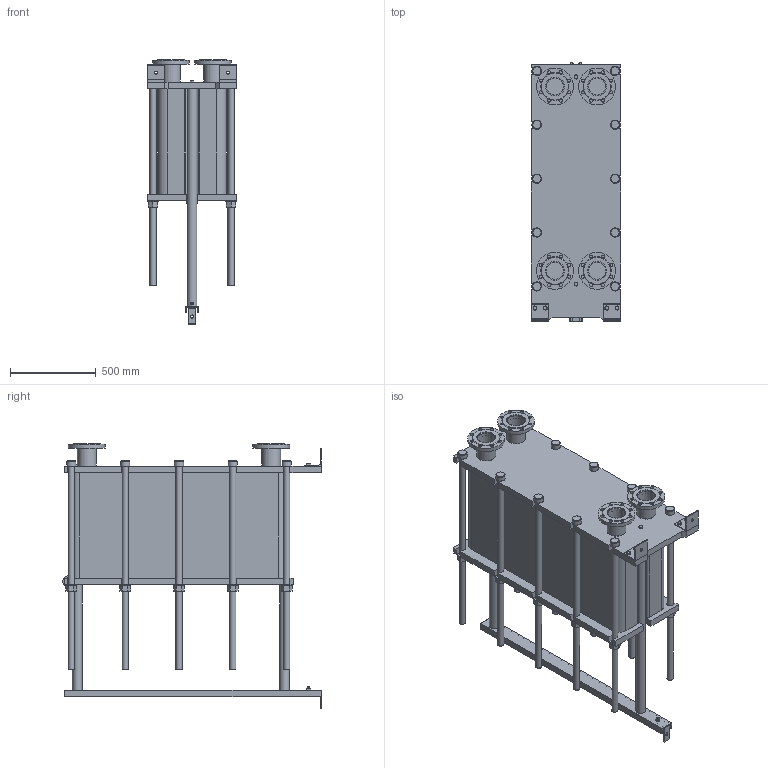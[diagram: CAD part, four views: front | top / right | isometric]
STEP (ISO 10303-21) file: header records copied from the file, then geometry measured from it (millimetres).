
FILE_DESCRIPTION(/* description */ (''),/* implementation_level */ '2;1');
FILE_NAME(/* name */ 'C:\Users\zhuro\Desktop\ENCO\TO\ЭН-04\ЭН-0,5-04-178-1.stp',/* time_stamp */ '2022-06-06T11:00:39+03:00',/* author */ ('zhuro'),/* organization */ (''),/* preprocessor_version */ 'ST-DEVELOPER v18.1',/* originating_system */ 'Autodesk Inventor 2022',/* authorisation */ '');
FILE_SCHEMA (('AUTOMOTIVE_DESIGN { 1 0 10303 214 3 1 1 }'));
Length unit declared in the file: millimetre
Products named in the file (1): ЭН-0,5-04-178-1
Bounding box: 520 x 1510 x 1544 mm (x, y, z)
Volume: 382304914.5 mm3; surface area: 10070489.3 mm2
Topology: 45 solids, 45 shells, 668 faces, 1611 edges, 1048 vertices
Faces by surface type: plane 457, cylinder 166, cone 39, torus 6
Full cylindrical faces by diameter (mm): 8 x4, 10 x2, 16 x8, 18 x35, 36 x25, 40 x2, 42 x1, 45 x4, 54 x10, 57 x2, 60 x10, 68 x2, 100 x4, 110 x8, 215 x4
Entity records: 23607 total; most frequent: CARTESIAN_POINT 7348, DIRECTION 3371, ORIENTED_EDGE 3142, EDGE_CURVE 1571, AXIS2_PLACEMENT_3D 1199, VERTEX_POINT 1044, LINE 973, VECTOR 973
